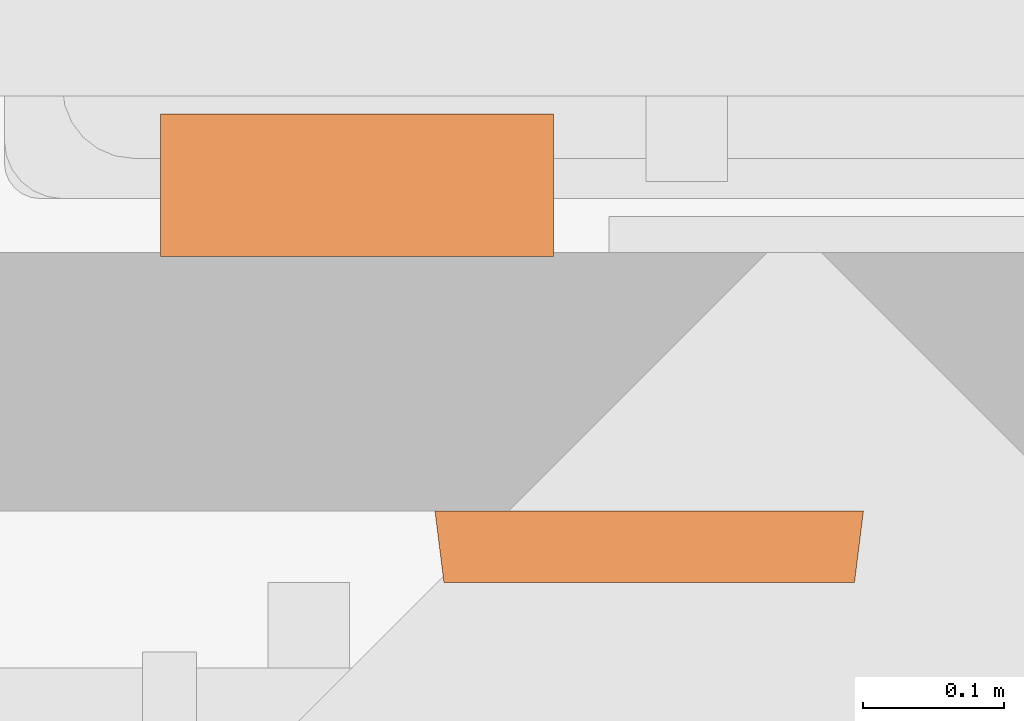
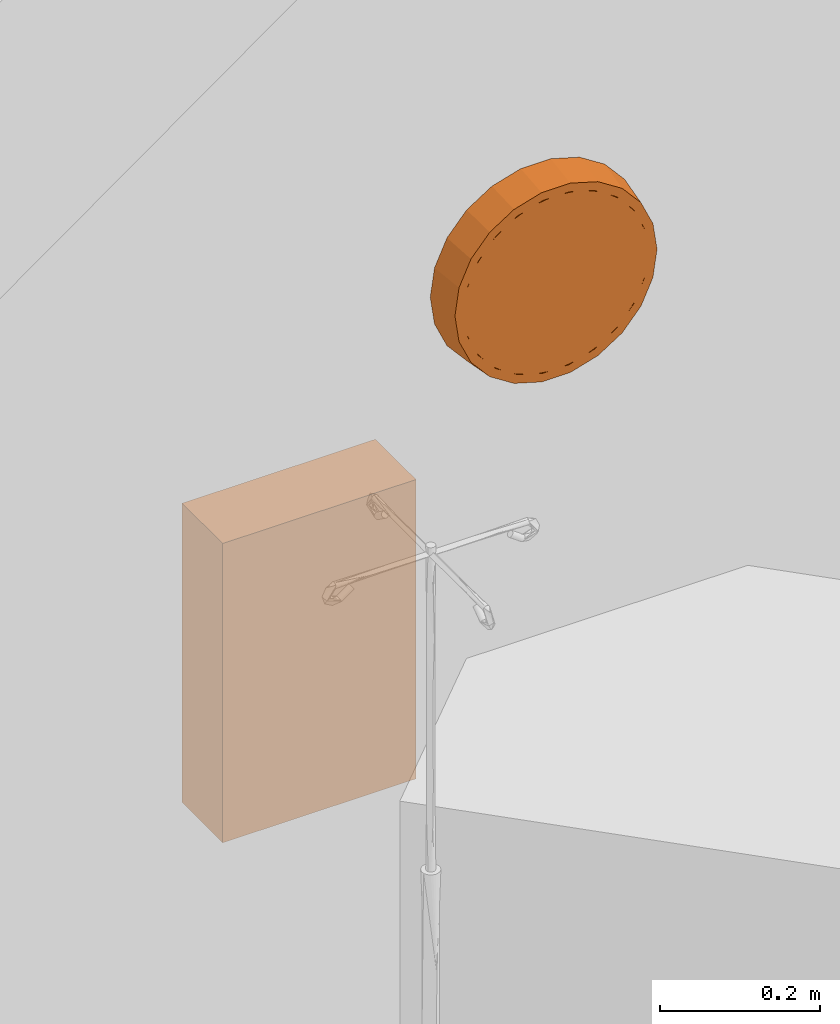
# One storey, part 77 of 142: 2 proxies.
"""IFC2X3 building model written with IfcOpenShell, lengths in feet."""

from ifc_helpers import new_model, entity, si_unit, converted_unit, derived_unit, direction, frame, frame_2d, origin, place, context, subcontext, project, spatial, rectangle, extrude, faceted_brep, source, transform, mapped, type_object, type_shapes, element, save


model = new_model("IFC2X3")

# Units and contexts
model_context = context("Model", 3, precision=0.0001, world=origin(), true_north=direction((6.12303176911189e-17, 1.0)))
body_context = subcontext(model_context, "Body", "Model", "MODEL_VIEW")
ifc_project = project(units=[converted_unit("LENGTHUNIT", "FOOT", entity("IfcRatioMeasure", 0.3048), si_unit("LENGTHUNIT", "METRE"), dimensions=[1, 0, 0, 0, 0, 0, 0]), converted_unit("AREAUNIT", "SQUARE FOOT", entity("IfcRatioMeasure", 0.09290304), si_unit("AREAUNIT", "SQUARE_METRE"), dimensions=[2, 0, 0, 0, 0, 0, 0]), converted_unit("VOLUMEUNIT", "CUBIC FOOT", entity("IfcRatioMeasure", 0.028316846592), si_unit("VOLUMEUNIT", "CUBIC_METRE"), dimensions=[3, 0, 0, 0, 0, 0, 0]), converted_unit("PLANEANGLEUNIT", "DEGREE", entity("IfcRatioMeasure", 0.0174532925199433), si_unit("PLANEANGLEUNIT", "RADIAN"), dimensions=[0, 0, 0, 0, 0, 0, 0]), si_unit("MASSUNIT", "GRAM", prefix="KILO"), derived_unit("MASSDENSITYUNIT", [(si_unit("MASSUNIT", "GRAM", prefix="KILO"), 1), (si_unit("LENGTHUNIT", "METRE"), -3)]), si_unit("TIMEUNIT", "SECOND"), si_unit("FREQUENCYUNIT", "HERTZ"), si_unit("THERMODYNAMICTEMPERATUREUNIT", "DEGREE_CELSIUS"), derived_unit("THERMALTRANSMITTANCEUNIT", [(si_unit("MASSUNIT", "GRAM", prefix="KILO"), 1), (si_unit("THERMODYNAMICTEMPERATUREUNIT", "KELVIN"), -1), (si_unit("TIMEUNIT", "SECOND"), -3)]), derived_unit("VOLUMETRICFLOWRATEUNIT", [(si_unit("LENGTHUNIT", "METRE"), 3), (si_unit("TIMEUNIT", "SECOND"), -1)]), si_unit("ELECTRICCURRENTUNIT", "AMPERE"), si_unit("ELECTRICVOLTAGEUNIT", "VOLT"), si_unit("POWERUNIT", "WATT"), si_unit("FORCEUNIT", "NEWTON"), si_unit("ILLUMINANCEUNIT", "LUX"), si_unit("LUMINOUSFLUXUNIT", "LUMEN"), si_unit("LUMINOUSINTENSITYUNIT", "CANDELA"), derived_unit("USERDEFINED", [(si_unit("MASSUNIT", "GRAM", prefix="KILO"), -1), (si_unit("LENGTHUNIT", "METRE"), -2), (si_unit("TIMEUNIT", "SECOND"), 3), (si_unit("LUMINOUSFLUXUNIT", "LUMEN"), 1)]), derived_unit("LINEARVELOCITYUNIT", [(si_unit("LENGTHUNIT", "METRE"), 1), (si_unit("TIMEUNIT", "SECOND"), -1)]), si_unit("PRESSUREUNIT", "PASCAL"), derived_unit("USERDEFINED", [(si_unit("LENGTHUNIT", "METRE"), -2), (si_unit("MASSUNIT", "GRAM", prefix="KILO"), 1), (si_unit("TIMEUNIT", "SECOND"), -2)])], contexts=[model_context])

# Site, building, storey, space
site_placement = place(None, origin())
site = spatial("IfcSite", under=ifc_project, at=site_placement, Name="Default", CompositionType="ELEMENT")
building_placement = place(site_placement, origin())
building = spatial("IfcBuilding", under=site, at=building_placement, Name="OUTPATIENT / PACT CLINIC (Ch. 265)", CompositionType="ELEMENT")
storey_placement = place(building_placement, origin())
storey = spatial("IfcBuildingStorey", under=building, at=storey_placement, Name="LEVEL 1", CompositionType="ELEMENT", Elevation=0.0)
space_1_placement = place(storey_placement, origin())
space_1 = spatial("IfcSpace", under=storey, at=space_1_placement, Name="TRPR1", CompositionType="ELEMENT", InteriorOrExteriorSpace="INTERNAL")

# Proxy
building_element_proxy_type_1 = type_object("IfcBuildingElementProxyType", Name="F3200 - Clock, Battery, 12in Dia", PredefinedType="NOTDEFINED")
shared_shape_1 = source(origin(), body_context, "Body", "Brep", [
    faceted_brep([(0.0527623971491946, -0.166666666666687, -0.0087350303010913), (0.143371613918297, -0.166666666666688, 0.0607918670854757), (0.212898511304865, -0.16666666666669, 0.151401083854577), (0.256604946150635, -0.166666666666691, 0.256917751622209), (0.271512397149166, -0.166666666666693, 0.370151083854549), (0.256604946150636, -0.166666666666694, 0.483384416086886), (0.212898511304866, -0.166666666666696, 0.588901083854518), (0.143371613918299, -0.166666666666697, 0.67951030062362), (0.052762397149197, -0.166666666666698, 0.749037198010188), (-0.0527542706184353, -0.166666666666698, 0.792743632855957), (-0.165987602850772, -0.166666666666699, 0.807651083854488), (-0.279220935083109, -0.166666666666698, 0.792743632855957), (-0.384737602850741, -0.166666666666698, 0.749037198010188), (-0.475346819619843, -0.166666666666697, 0.679510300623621), (-0.544873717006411, -0.166666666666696, 0.588901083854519), (-0.588580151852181, -0.166666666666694, 0.483384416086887), (-0.603487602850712, -0.166666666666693, 0.37015108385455), (-0.588580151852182, -0.166666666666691, 0.256917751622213), (-0.544873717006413, -0.16666666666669, 0.151401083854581), (-0.475346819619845, -0.166666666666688, 0.0607918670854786), (-0.384737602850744, -0.166666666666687, -0.0087350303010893), (-0.279220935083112, -0.166666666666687, -0.052441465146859), (-0.165987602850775, -0.166666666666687, -0.0673489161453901), (-0.0527542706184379, -0.166666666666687, -0.0524414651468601), (0.256604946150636, -0.145833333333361, 0.483384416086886), (0.271512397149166, -0.145833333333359, 0.370151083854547), (0.256604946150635, -0.145833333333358, 0.256917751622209), (0.212898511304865, -0.145833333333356, 0.151401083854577), (0.143371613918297, -0.145833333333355, 0.0607918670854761), (0.0527623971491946, -0.145833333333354, -0.00873503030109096), (-0.0527542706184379, -0.145833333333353, -0.0524414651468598), (-0.165987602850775, -0.145833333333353, -0.0673489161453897), (-0.279220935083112, -0.145833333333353, -0.0524414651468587), (-0.384737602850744, -0.145833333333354, -0.00873503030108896), (-0.475346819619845, -0.145833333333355, 0.060791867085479), (-0.544873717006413, -0.145833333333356, 0.151401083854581), (-0.588580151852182, -0.145833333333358, 0.256917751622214), (-0.603487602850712, -0.145833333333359, 0.37015108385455), (-0.588580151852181, -0.145833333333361, 0.483384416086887), (-0.544873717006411, -0.145833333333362, 0.588901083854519), (-0.475346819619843, -0.145833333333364, 0.679510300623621), (-0.384737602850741, -0.145833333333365, 0.749037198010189), (-0.279220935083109, -0.145833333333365, 0.792743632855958), (-0.165987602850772, -0.145833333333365, 0.807651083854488), (-0.0527542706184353, -0.145833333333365, 0.792743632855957), (0.052762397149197, -0.145833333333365, 0.749037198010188), (0.143371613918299, -0.145833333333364, 0.67951030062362), (0.212898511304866, -0.145833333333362, 0.588901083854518)], [[[0, 1, 2, 3, 4, 5, 6, 7, 8, 9, 10, 11, 12, 13, 14, 15, 16, 17, 18, 19, 20, 21, 22, 23]], [[24, 25, 26, 27, 28, 29, 30, 31, 32, 33, 34, 35, 36, 37, 38, 39, 40, 41, 42, 43, 44, 45, 46, 47]], [[36, 17, 16, 37]], [[35, 18, 17, 36]], [[20, 19, 34, 33]], [[35, 34, 19, 18]], [[21, 20, 33, 32]], [[22, 21, 32, 31]], [[30, 23, 22, 31]], [[29, 0, 23, 30]], [[2, 1, 28, 27]], [[29, 28, 1, 0]], [[3, 2, 27, 26]], [[4, 3, 26, 25]], [[24, 5, 4, 25]], [[47, 6, 5, 24]], [[8, 7, 46, 45]], [[47, 46, 7, 6]], [[9, 8, 45, 44]], [[10, 9, 44, 43]], [[11, 10, 43, 42]], [[12, 11, 42, 41]], [[14, 39, 38, 15]], [[15, 38, 37, 16]], [[12, 41, 40, 13]], [[40, 39, 14, 13]]]),
    faceted_brep([(-0.493417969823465, 0.0, -0.00772370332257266), (-0.586614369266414, 0.0, 0.0998306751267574), (-0.165987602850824, 0.0, 0.370151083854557), (-0.373695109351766, 0.0, -0.0846649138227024), (-0.645734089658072, 0.0, 0.229284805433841), (-0.665987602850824, 0.0, 0.370151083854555), (-0.645734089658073, 0.0, 0.51101736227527), (-0.586614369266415, 0.0, 0.640471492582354), (-0.493417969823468, 0.0, 0.748025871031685), (-0.373695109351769, 0.0, 0.824967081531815), (-0.237145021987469, 0.0, 0.865061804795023), (-0.0948301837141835, 0.0, 0.865061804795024), (0.0417199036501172, 0.0, 0.824967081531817), (0.161442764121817, 0.0, 0.748025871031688), (0.254639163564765, 0.0, 0.640471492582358), (0.313758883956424, 0.0, 0.511017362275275), (0.334012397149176, 0.0, 0.370151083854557), (0.313758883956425, 0.0, 0.229284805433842), (0.254639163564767, 0.0, 0.0998306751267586), (0.161442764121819, 0.0, -0.00772370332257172), (0.0417199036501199, 0.0, -0.0846649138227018), (-0.0948301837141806, 0.0, -0.124759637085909), (-0.237145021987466, 0.0, -0.124759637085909), (-0.165987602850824, -0.145833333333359, 0.370151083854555), (-0.534036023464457, -0.145833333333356, 0.133620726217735), (-0.452489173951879, -0.145833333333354, 0.0395106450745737), (-0.585765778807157, -0.145833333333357, 0.246893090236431), (-0.347731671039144, -0.145833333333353, -0.0278129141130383), (-0.228250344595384, -0.145833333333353, -0.0628957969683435), (-0.603487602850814, -0.145833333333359, 0.370151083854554), (-0.103724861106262, -0.145833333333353, -0.0628957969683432), (0.0157564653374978, -0.145833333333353, -0.0278129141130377), (0.120513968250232, -0.145833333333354, 0.0395106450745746), (0.20206081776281, -0.145833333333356, 0.133620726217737), (0.253790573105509, -0.145833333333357, 0.246893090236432), (0.271512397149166, -0.145833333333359, 0.370151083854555), (-0.585765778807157, -0.145833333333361, 0.493409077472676), (-0.534036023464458, -0.145833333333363, 0.606681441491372), (-0.452489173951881, -0.145833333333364, 0.700791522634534), (-0.347731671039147, -0.145833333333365, 0.768115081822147), (-0.228250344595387, -0.145833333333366, 0.803197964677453), (0.253790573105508, -0.145833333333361, 0.49340907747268), (0.202060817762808, -0.145833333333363, 0.606681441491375), (0.12051396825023, -0.145833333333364, 0.700791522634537), (0.0157564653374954, -0.145833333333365, 0.768115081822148), (-0.103724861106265, -0.145833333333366, 0.803197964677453), (0.253790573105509, -0.166666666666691, 0.246893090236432), (0.271512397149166, -0.166666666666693, 0.370151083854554), (0.20206081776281, -0.166666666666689, 0.133620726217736), (-0.103724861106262, -0.166666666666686, -0.0628957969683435), (0.0157564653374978, -0.166666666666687, -0.0278129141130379), (0.120513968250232, -0.166666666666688, 0.0395106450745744), (-0.228250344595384, -0.166666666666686, -0.0628957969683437), (-0.452489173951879, -0.166666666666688, 0.0395106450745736), (-0.347731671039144, -0.166666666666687, -0.0278129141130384), (-0.603487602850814, -0.166666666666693, 0.370151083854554), (-0.585765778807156, -0.166666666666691, 0.246893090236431), (-0.534036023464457, -0.166666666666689, 0.133620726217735), (-0.585765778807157, -0.166666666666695, 0.493409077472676), (-0.534036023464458, -0.166666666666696, 0.606681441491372), (-0.347731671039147, -0.166666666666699, 0.768115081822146), (-0.452489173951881, -0.166666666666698, 0.700791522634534), (-0.228250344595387, -0.166666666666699, 0.803197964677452), (-0.103724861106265, -0.166666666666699, 0.803197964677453), (0.0157564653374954, -0.166666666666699, 0.768115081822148), (0.12051396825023, -0.166666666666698, 0.700791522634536), (0.253790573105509, -0.166666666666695, 0.493409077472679), (0.202060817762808, -0.166666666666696, 0.606681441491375), (-0.62574465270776, -0.166666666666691, 0.235154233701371), (-0.64515426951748, -0.166666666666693, 0.370151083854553), (-0.569088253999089, -0.166666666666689, 0.111094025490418), (-0.479775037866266, -0.166666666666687, 0.00802107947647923), (-0.365040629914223, -0.166666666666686, -0.0657142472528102), (-0.234180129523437, -0.166666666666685, -0.104138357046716), (-0.0977950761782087, -0.166666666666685, -0.104138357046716), (0.0330654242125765, -0.166666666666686, -0.0657142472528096), (0.147799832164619, -0.166666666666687, 0.00802107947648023), (0.237113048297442, -0.166666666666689, 0.11109402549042), (0.293769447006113, -0.166666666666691, 0.235154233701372), (0.313179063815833, -0.166666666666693, 0.370151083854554), (0.293769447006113, -0.166666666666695, 0.50514793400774), (0.237113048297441, -0.166666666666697, 0.629208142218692), (0.147799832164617, -0.166666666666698, 0.732281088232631), (0.0330654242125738, -0.1666666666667, 0.80601641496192), (-0.0977950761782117, -0.1666666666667, 0.844440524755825), (-0.23418012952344, -0.1666666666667, 0.844440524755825), (-0.365040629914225, -0.1666666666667, 0.806016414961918), (-0.479775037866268, -0.166666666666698, 0.732281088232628), (-0.569088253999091, -0.166666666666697, 0.629208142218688), (-0.625744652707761, -0.166666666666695, 0.505147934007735)], [[[0, 1, 2]], [[0, 2, 3]], [[4, 2, 1]], [[2, 4, 5]], [[5, 6, 2]], [[2, 6, 7]], [[2, 7, 8]], [[2, 8, 9]], [[9, 10, 2]], [[11, 2, 10]], [[2, 11, 12]], [[2, 12, 13]], [[14, 2, 13]], [[2, 14, 15]], [[15, 16, 2]], [[2, 16, 17]], [[2, 17, 18]], [[18, 19, 2]], [[19, 20, 2]], [[21, 2, 20]], [[2, 21, 22]], [[22, 3, 2]], [[23, 24, 25]], [[24, 23, 26]], [[27, 23, 25]], [[23, 27, 28]], [[29, 26, 23]], [[28, 30, 23]], [[31, 23, 30]], [[23, 31, 32]], [[23, 32, 33]], [[33, 34, 23]], [[34, 35, 23]], [[23, 36, 29]], [[37, 36, 23]], [[38, 37, 23]], [[39, 38, 23]], [[23, 40, 39]], [[23, 35, 41]], [[41, 42, 23]], [[43, 23, 42]], [[43, 44, 23]], [[44, 45, 23]], [[40, 23, 45]], [[46, 47, 35, 34]], [[46, 34, 33, 48]], [[31, 30, 49, 50]], [[32, 31, 50, 51]], [[51, 48, 33, 32]], [[30, 28, 52, 49]], [[27, 25, 53, 54]], [[28, 27, 54, 52]], [[29, 55, 56, 26]], [[26, 56, 57, 24]], [[24, 57, 53, 25]], [[55, 29, 36, 58]], [[58, 36, 37, 59]], [[60, 61, 38, 39]], [[59, 37, 38, 61]], [[39, 40, 62, 60]], [[40, 45, 63, 62]], [[64, 63, 45, 44]], [[64, 44, 43, 65]], [[41, 35, 47, 66]], [[42, 41, 66, 67]], [[67, 65, 43, 42]], [[68, 55, 69]], [[56, 55, 68]], [[68, 70, 56]], [[70, 57, 56]], [[71, 57, 70]], [[57, 71, 53]], [[72, 53, 71]], [[54, 53, 72]], [[72, 73, 54]], [[73, 52, 54]], [[49, 52, 73]], [[73, 74, 49]], [[74, 50, 49]], [[75, 50, 74]], [[50, 75, 51]], [[76, 51, 75]], [[48, 51, 76]], [[76, 77, 48]], [[77, 46, 48]], [[78, 46, 77]], [[46, 78, 47]], [[78, 79, 47]], [[79, 80, 47]], [[66, 47, 80]], [[80, 81, 66]], [[66, 81, 67]], [[82, 67, 81]], [[67, 82, 65]], [[65, 82, 83]], [[64, 65, 83]], [[83, 84, 64]], [[64, 84, 63]], [[85, 63, 84]], [[63, 85, 62]], [[62, 85, 60]], [[86, 60, 85]], [[60, 86, 61]], [[61, 86, 87]], [[59, 61, 87]], [[87, 88, 59]], [[59, 88, 58]], [[89, 58, 88]], [[55, 89, 69]], [[58, 89, 55]], [[78, 17, 16, 79]], [[77, 18, 17, 78]], [[19, 76, 75, 20]], [[77, 76, 19, 18]], [[20, 75, 74, 21]], [[74, 73, 22, 21]], [[22, 73, 72, 3]], [[0, 3, 72, 71]], [[4, 1, 70, 68]], [[70, 1, 0, 71]], [[5, 4, 68, 69]], [[89, 6, 5, 69]], [[88, 7, 6, 89]], [[8, 87, 86, 9]], [[88, 87, 8, 7]], [[9, 86, 85, 10]], [[85, 84, 11, 10]], [[83, 12, 11, 84]], [[82, 13, 12, 83]], [[14, 81, 80, 15]], [[82, 81, 14, 13]], [[15, 80, 79, 16]]]),
])
type_shapes(building_element_proxy_type_1, [shared_shape_1])
proxy_1_placement = place(space_1_placement, frame((397.212630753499, -932.045518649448, 6.50000000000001)))
element("IfcBuildingElementProxy", 1, at=proxy_1_placement, inside=space_1, type_object=building_element_proxy_type_1, Name="F3200 - Clock, Battery, 12in Dia:F3200 - Clock, Battery, 12in Dia", ObjectType="F3200 - Clock, Battery, 12in Dia", context=body_context, shape_type="MappedRepresentation", body=[
    mapped(shared_shape_1, transform((0.0, 0.0, 0.0), scale=1.0)),
])

# Space
space_2_placement = place(storey_placement, origin())
space_2 = spatial("IfcSpace", under=storey, at=space_2_placement, Name="EXPA01", CompositionType="ELEMENT", InteriorOrExteriorSpace="INTERNAL")

# Proxy
building_element_proxy_type_2 = type_object("IfcBuildingElementProxyType", Name="A5107 - Dispenser, Glove, Surgical-Examination, Wall Mntd 10\"x 4\"", PredefinedType="NOTDEFINED")
shared_shape_2 = source(origin(), body_context, "Body", "SweptSolid", [
    extrude(rectangle(XDim=0.333333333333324, YDim=0.916666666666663, at=frame_2d((-1.38777878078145e-17, 0.0), x_axis=(1.0, 0.0))), frame((0.0, 0.166666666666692, 0.0), z_axis=(0.0, 0.0, 1.0), x_axis=(0.0, 1.0, 0.0)), (0.0, 0.0, 1.0), 1.5),
])
type_shapes(building_element_proxy_type_2, [shared_shape_2])
proxy_2_placement = place(space_2_placement, frame((396.364351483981, -931.451096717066, 4.0)))
element("IfcBuildingElementProxy", 2, at=proxy_2_placement, inside=space_2, type_object=building_element_proxy_type_2, Name="A5107 - Dispenser, Glove, Surgical-Examination, Wall Mntd1:A5107 - Dispenser, Glove, Surgical-Examination, Wall Mntd 10\"x 4\"", ObjectType="A5107 - Dispenser, Glove, Surgical-Examination, Wall Mntd 10\"x 4\"", context=body_context, shape_type="MappedRepresentation", body=[
    mapped(shared_shape_2, transform((0.0, 0.0, 0.0), scale=1.0)),
])

save(model, "model.ifc")
